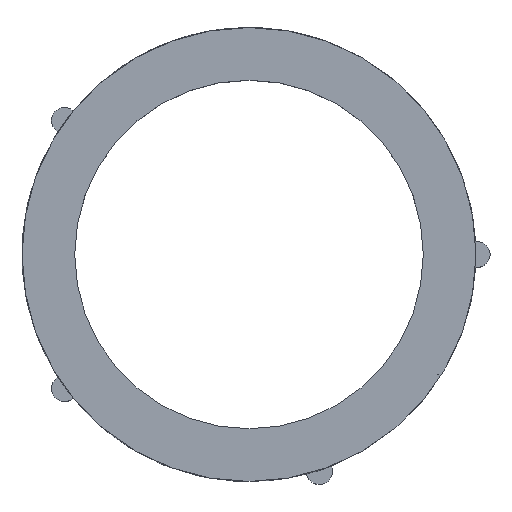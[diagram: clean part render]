
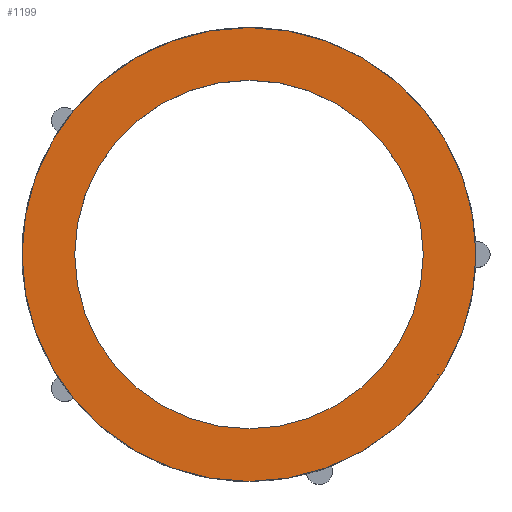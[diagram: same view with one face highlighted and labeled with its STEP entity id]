
A CAD part, top view. The second image highlights one B-rep face of the part: STEP entity #1199.
In plain terms, the highlighted planar face has unit normal (0, 0, 1).
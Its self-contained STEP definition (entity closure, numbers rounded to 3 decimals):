
#68=FACE_BOUND('',#190,.T.);
#69=FACE_BOUND('',#191,.T.);
#124=FACE_OUTER_BOUND('',#189,.T.);
#189=EDGE_LOOP('',(#846));
#190=EDGE_LOOP('',(#847));
#191=EDGE_LOOP('',(#848,#849,#850));
#263=CIRCLE('',#1289,34.84);
#264=CIRCLE('',#1290,26.75);
#265=CIRCLE('',#1291,34.333);
#344=LINE('',#1881,#423);
#345=LINE('',#1883,#424);
#423=VECTOR('',#1471,10.);
#424=VECTOR('',#1472,10.);
#523=VERTEX_POINT('',#1875);
#524=VERTEX_POINT('',#1877);
#525=VERTEX_POINT('',#1879);
#526=VERTEX_POINT('',#1880);
#527=VERTEX_POINT('',#1882);
#653=EDGE_CURVE('',#523,#523,#263,.T.);
#654=EDGE_CURVE('',#524,#524,#264,.T.);
#655=EDGE_CURVE('',#525,#526,#344,.T.);
#656=EDGE_CURVE('',#526,#527,#345,.T.);
#657=EDGE_CURVE('',#527,#525,#265,.T.);
#846=ORIENTED_EDGE('',*,*,#653,.T.);
#847=ORIENTED_EDGE('',*,*,#654,.T.);
#848=ORIENTED_EDGE('',*,*,#655,.T.);
#849=ORIENTED_EDGE('',*,*,#656,.T.);
#850=ORIENTED_EDGE('',*,*,#657,.T.);
#1167=PLANE('',#1288);
#1199=ADVANCED_FACE('',(#124,#68,#69),#1167,.T.);
#1288=AXIS2_PLACEMENT_3D('',#1874,#1465,#1466);
#1289=AXIS2_PLACEMENT_3D('',#1876,#1467,#1468);
#1290=AXIS2_PLACEMENT_3D('',#1878,#1469,#1470);
#1291=AXIS2_PLACEMENT_3D('',#1884,#1473,#1474);
#1465=DIRECTION('center_axis',(0.,0.,1.));
#1466=DIRECTION('ref_axis',(-1.,0.,0.));
#1467=DIRECTION('center_axis',(0.,0.,1.));
#1468=DIRECTION('ref_axis',(-1.,0.,0.));
#1469=DIRECTION('center_axis',(0.,0.,-1.));
#1470=DIRECTION('ref_axis',(-1.,0.,0.));
#1471=DIRECTION('',(0.871,-0.491,0.));
#1472=DIRECTION('',(-0.871,0.49,0.));
#1473=DIRECTION('center_axis',(0.,0.,1.));
#1474=DIRECTION('ref_axis',(-1.,0.,0.));
#1874=CARTESIAN_POINT('Origin',(-0.001,2.234,15.85));
#1875=CARTESIAN_POINT('',(34.84,2.234,15.85));
#1876=CARTESIAN_POINT('Origin',(-0.001,2.234,15.85));
#1877=CARTESIAN_POINT('',(26.749,2.234,15.85));
#1878=CARTESIAN_POINT('Origin',(-0.001,2.234,15.85));
#1879=CARTESIAN_POINT('',(28.983,-16.169,15.85));
#1880=CARTESIAN_POINT('',(29.114,-16.243,15.85));
#1881=CARTESIAN_POINT('',(26.153,-14.573,15.85));
#1882=CARTESIAN_POINT('',(28.983,-16.169,15.85));
#1883=CARTESIAN_POINT('',(29.114,-16.243,15.85));
#1884=CARTESIAN_POINT('Origin',(-0.001,2.234,15.85));
